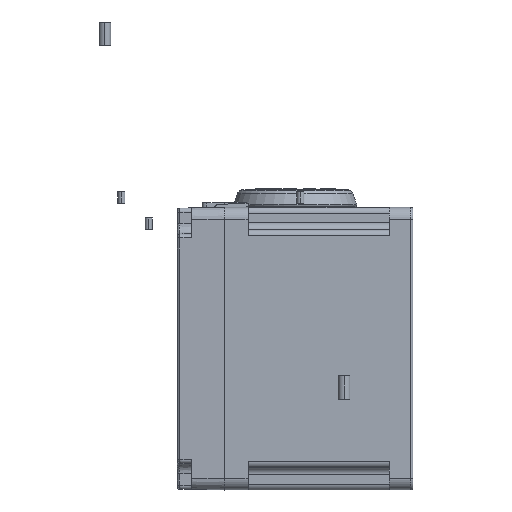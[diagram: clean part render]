
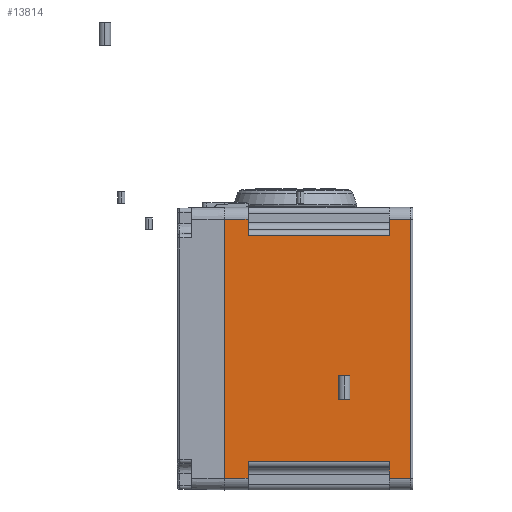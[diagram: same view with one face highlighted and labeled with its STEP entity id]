
A CAD part, left-side view. The second image highlights one B-rep face of the part: STEP entity #13814.
In plain terms, the highlighted planar face has unit normal (-1, 0, 0).
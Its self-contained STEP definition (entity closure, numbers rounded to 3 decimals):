
#3493=DIRECTION('',(0.,0.,-1.));
#3494=VECTOR('',#3493,7.);
#3495=CARTESIAN_POINT('',(-55.,10.,55.));
#3496=LINE('',#3495,#3494);
#3523=DIRECTION('',(0.,0.,-1.));
#3524=VECTOR('',#3523,7.);
#3525=CARTESIAN_POINT('',(-55.,10.,-48.));
#3526=LINE('',#3525,#3524);
#3734=DIRECTION('',(0.,0.,1.));
#3735=VECTOR('',#3734,110.);
#3736=CARTESIAN_POINT('',(-55.,1.,-55.));
#3737=LINE('',#3736,#3735);
#3738=DIRECTION('',(0.,-1.,0.));
#3739=VECTOR('',#3738,60.);
#3740=CARTESIAN_POINT('',(-55.,70.,-48.));
#3741=LINE('',#3740,#3739);
#3742=DIRECTION('',(0.,-1.,0.));
#3743=VECTOR('',#3742,10.);
#3744=CARTESIAN_POINT('',(-55.,80.,-55.));
#3745=LINE('',#3744,#3743);
#3746=DIRECTION('',(0.,-1.,0.));
#3747=VECTOR('',#3746,10.);
#3748=CARTESIAN_POINT('',(-55.,80.,55.));
#3749=LINE('',#3748,#3747);
#3750=DIRECTION('',(0.,1.,0.));
#3751=VECTOR('',#3750,60.);
#3752=CARTESIAN_POINT('',(-55.,10.,48.));
#3753=LINE('',#3752,#3751);
#3754=DIRECTION('',(0.,1.,0.));
#3755=VECTOR('',#3754,9.);
#3756=CARTESIAN_POINT('',(-55.,1.,55.));
#3757=LINE('',#3756,#3755);
#3773=DIRECTION('',(0.,1.,0.));
#3774=VECTOR('',#3773,9.);
#3775=CARTESIAN_POINT('',(-55.,1.,-55.));
#3776=LINE('',#3775,#3774);
#3939=DIRECTION('',(0.,0.,1.));
#3940=VECTOR('',#3939,7.);
#3941=CARTESIAN_POINT('',(-55.,70.,48.));
#3942=LINE('',#3941,#3940);
#3985=DIRECTION('',(0.,0.,1.));
#3986=VECTOR('',#3985,7.);
#3987=CARTESIAN_POINT('',(-55.,70.,-55.));
#3988=LINE('',#3987,#3986);
#4077=DIRECTION('',(0.,0.,1.));
#4078=VECTOR('',#4077,110.);
#4079=CARTESIAN_POINT('',(-55.,80.,-55.));
#4080=LINE('',#4079,#4078);
#7285=CARTESIAN_POINT('',(-55.,80.,55.));
#7287=VERTEX_POINT('',#7285);
#7298=CARTESIAN_POINT('',(-55.,80.,-55.));
#7300=VERTEX_POINT('',#7298);
#7342=CARTESIAN_POINT('',(-55.,70.,55.));
#7344=VERTEX_POINT('',#7342);
#7353=CARTESIAN_POINT('',(-55.,70.,-55.));
#7355=VERTEX_POINT('',#7353);
#7566=CARTESIAN_POINT('',(-55.,10.,55.));
#7568=VERTEX_POINT('',#7566);
#7583=CARTESIAN_POINT('',(-55.,10.,-55.));
#7585=VERTEX_POINT('',#7583);
#7607=CARTESIAN_POINT('',(-55.,10.,48.));
#7608=CARTESIAN_POINT('',(-55.,70.,48.));
#7609=VERTEX_POINT('',#7607);
#7610=VERTEX_POINT('',#7608);
#7655=CARTESIAN_POINT('',(-55.,70.,-48.));
#7656=CARTESIAN_POINT('',(-55.,10.,-48.));
#7657=VERTEX_POINT('',#7655);
#7658=VERTEX_POINT('',#7656);
#8299=CARTESIAN_POINT('',(-55.,1.,55.));
#8301=VERTEX_POINT('',#8299);
#8327=CARTESIAN_POINT('',(-55.,1.,-55.));
#8328=VERTEX_POINT('',#8327);
#13786=CARTESIAN_POINT('',(-55.,0.,-60.));
#13787=DIRECTION('',(-1.,0.,0.));
#13788=DIRECTION('',(0.,0.,1.));
#13789=AXIS2_PLACEMENT_3D('',#13786,#13787,#13788);
#13790=PLANE('',#13789);
#13792=ORIENTED_EDGE('',*,*,#13791,.F.);
#13794=ORIENTED_EDGE('',*,*,#13793,.T.);
#13795=ORIENTED_EDGE('',*,*,#13563,.F.);
#13797=ORIENTED_EDGE('',*,*,#13796,.F.);
#13799=ORIENTED_EDGE('',*,*,#13798,.F.);
#13801=ORIENTED_EDGE('',*,*,#13800,.F.);
#13803=ORIENTED_EDGE('',*,*,#13802,.T.);
#13805=ORIENTED_EDGE('',*,*,#13804,.T.);
#13807=ORIENTED_EDGE('',*,*,#13806,.F.);
#13809=ORIENTED_EDGE('',*,*,#13808,.F.);
#13810=ORIENTED_EDGE('',*,*,#13478,.F.);
#13811=ORIENTED_EDGE('',*,*,#13779,.F.);
#13812=EDGE_LOOP('',(#13792,#13794,#13795,#13797,#13799,#13801,#13803,#13805,
#13807,#13809,#13810,#13811));
#13813=FACE_OUTER_BOUND('',#13812,.F.);
#13814=ADVANCED_FACE('',(#13813),#13790,.T.);
#13478=EDGE_CURVE('',#7568,#7609,#3496,.T.);
#13563=EDGE_CURVE('',#7658,#7585,#3526,.T.);
#13779=EDGE_CURVE('',#8301,#7568,#3757,.T.);
#13791=EDGE_CURVE('',#8328,#8301,#3737,.T.);
#13793=EDGE_CURVE('',#8328,#7585,#3776,.T.);
#13796=EDGE_CURVE('',#7657,#7658,#3741,.T.);
#13798=EDGE_CURVE('',#7355,#7657,#3988,.T.);
#13800=EDGE_CURVE('',#7300,#7355,#3745,.T.);
#13802=EDGE_CURVE('',#7300,#7287,#4080,.T.);
#13804=EDGE_CURVE('',#7287,#7344,#3749,.T.);
#13806=EDGE_CURVE('',#7610,#7344,#3942,.T.);
#13808=EDGE_CURVE('',#7609,#7610,#3753,.T.);
